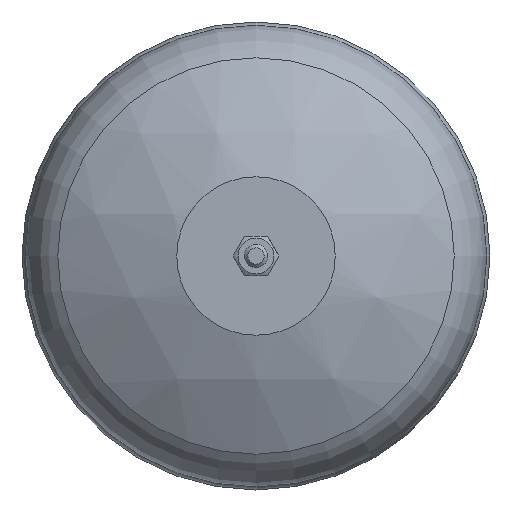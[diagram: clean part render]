
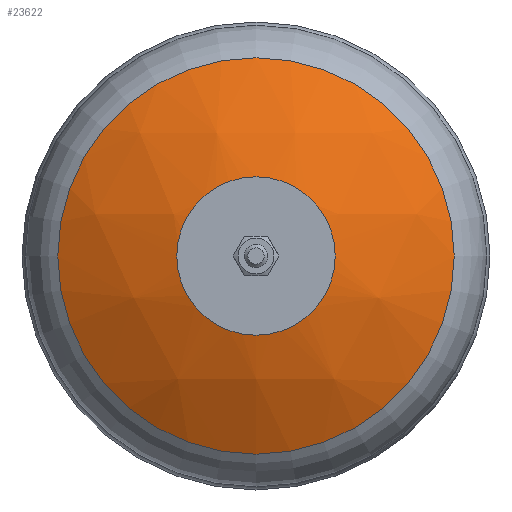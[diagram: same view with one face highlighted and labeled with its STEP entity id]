
A CAD part, front view. The second image highlights one B-rep face of the part: STEP entity #23622.
In plain terms, the highlighted spherical face has radius 159 mm.
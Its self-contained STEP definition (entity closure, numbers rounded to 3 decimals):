
#32=SPHERICAL_SURFACE('',#25383,159.);
#5434=CIRCLE('',#25382,85.047);
#5435=CIRCLE('',#25384,34.);
#5587=FACE_BOUND('',#8338,.T.);
#6896=FACE_OUTER_BOUND('',#8337,.T.);
#8337=EDGE_LOOP('',(#22110));
#8338=EDGE_LOOP('',(#22111));
#11645=VERTEX_POINT('',#50920);
#11646=VERTEX_POINT('',#50923);
#15153=EDGE_CURVE('',#11645,#11645,#5434,.T.);
#15154=EDGE_CURVE('',#11646,#11646,#5435,.T.);
#22110=ORIENTED_EDGE('',*,*,#15153,.T.);
#22111=ORIENTED_EDGE('',*,*,#15154,.F.);
#23622=ADVANCED_FACE('',(#6896,#5587),#32,.T.);
#25382=AXIS2_PLACEMENT_3D('',#50921,#30551,#30552);
#25383=AXIS2_PLACEMENT_3D('',#50922,#30553,#30554);
#25384=AXIS2_PLACEMENT_3D('',#50924,#30555,#30556);
#30551=DIRECTION('center_axis',(0.,-1.,0.));
#30552=DIRECTION('ref_axis',(1.,0.,0.));
#30553=DIRECTION('center_axis',(0.,0.,
1.));
#30554=DIRECTION('ref_axis',(-1.,0.,0.));
#30555=DIRECTION('center_axis',(0.,-1.,0.));
#30556=DIRECTION('ref_axis',(1.,0.,0.));
#50920=CARTESIAN_POINT('',(85.047,-143.021,0.));
#50921=CARTESIAN_POINT('Origin',(0.,-143.021,
0.));
#50922=CARTESIAN_POINT('Origin',(0.,-8.678,
0.));
#50923=CARTESIAN_POINT('',(34.,-164.,0.));
#50924=CARTESIAN_POINT('Origin',(0.,-164.,0.));
